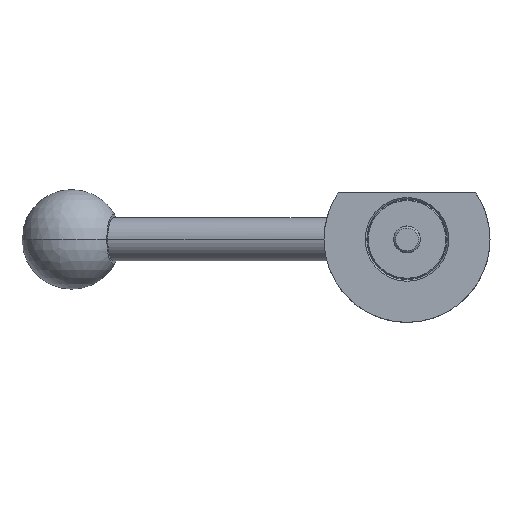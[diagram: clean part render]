
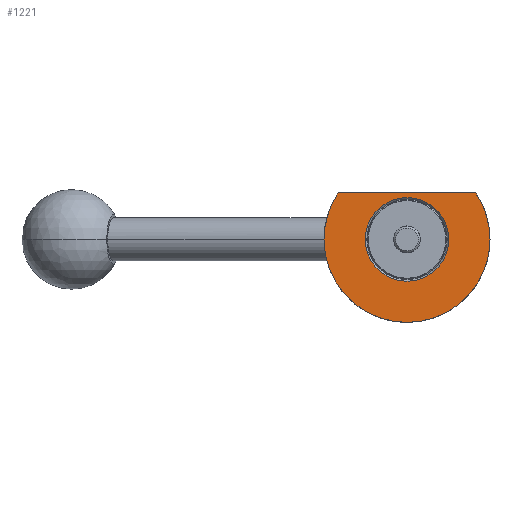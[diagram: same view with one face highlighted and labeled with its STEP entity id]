
A CAD part, front view. The second image highlights one B-rep face of the part: STEP entity #1221.
In plain terms, the highlighted planar face has unit normal (0, -1, 0).
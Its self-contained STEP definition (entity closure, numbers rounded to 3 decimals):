
#62 = DIRECTION ( 'NONE',  ( -1., 0., 0. ) ) ;
#117 = DIRECTION ( 'NONE',  ( 0., 1., 0. ) ) ;
#130 = CIRCLE ( 'NONE', #225, 12.6 ) ;
#174 = CARTESIAN_POINT ( 'NONE',  ( -12.6, -12., 0. ) ) ;
#219 = EDGE_CURVE ( 'NONE', #2017, #479, #1758, .T. ) ;
#225 = AXIS2_PLACEMENT_3D ( 'NONE', #1018, #117, #1645 ) ;
#343 = DIRECTION ( 'NONE',  ( 0., 1., 0. ) ) ;
#388 = CIRCLE ( 'NONE', #1528, 25. ) ;
#421 = ORIENTED_EDGE ( 'NONE', *, *, #219, .F. ) ;
#438 = DIRECTION ( 'NONE',  ( -1., 0., 0. ) ) ;
#440 = VERTEX_POINT ( 'NONE', #174 ) ;
#444 = CARTESIAN_POINT ( 'NONE',  ( -20.712, -12., 14. ) ) ;
#479 = VERTEX_POINT ( 'NONE', #2011 ) ;
#561 = PLANE ( 'NONE',  #2001 ) ;
#600 = CARTESIAN_POINT ( 'NONE',  ( -12.6, -12., 14. ) ) ;
#617 = DIRECTION ( 'NONE',  ( -1., 0., 0. ) ) ;
#643 = CARTESIAN_POINT ( 'NONE',  ( 0., -12., 0. ) ) ;
#649 = ORIENTED_EDGE ( 'NONE', *, *, #1873, .T. ) ;
#709 = AXIS2_PLACEMENT_3D ( 'NONE', #1771, #343, #62 ) ;
#770 = EDGE_CURVE ( 'NONE', #1635, #1343, #388, .T. ) ;
#870 = AXIS2_PLACEMENT_3D ( 'NONE', #898, #1384, #617 ) ;
#877 = VERTEX_POINT ( 'NONE', #1753 ) ;
#898 = CARTESIAN_POINT ( 'NONE',  ( 0., -12., 0. ) ) ;
#961 = CARTESIAN_POINT ( 'NONE',  ( -25., -12., 0. ) ) ;
#973 = AXIS2_PLACEMENT_3D ( 'NONE', #1157, #1974, #1022 ) ;
#977 = EDGE_CURVE ( 'NONE', #440, #877, #130, .T. ) ;
#1005 = FACE_OUTER_BOUND ( 'NONE', #1474, .T. ) ;
#1018 = CARTESIAN_POINT ( 'NONE',  ( 0., -12., 0. ) ) ;
#1019 = EDGE_CURVE ( 'NONE', #2017, #1343, #1245, .T. ) ;
#1022 = DIRECTION ( 'NONE',  ( -1., 0., 0. ) ) ;
#1024 = DIRECTION ( 'NONE',  ( 1., 0., 0. ) ) ;
#1035 = VECTOR ( 'NONE', #438, 1000. ) ;
#1037 = CIRCLE ( 'NONE', #709, 25. ) ;
#1082 = DIRECTION ( 'NONE',  ( 0., 1., 0. ) ) ;
#1155 = EDGE_LOOP ( 'NONE', ( #649, #1442 ) ) ;
#1157 = CARTESIAN_POINT ( 'NONE',  ( 0., -12., 0. ) ) ;
#1183 = CARTESIAN_POINT ( 'NONE',  ( -12.6, -12., 0. ) ) ;
#1221 = ADVANCED_FACE ( 'NONE', ( #1357, #1005 ), #561, .T. ) ;
#1245 = LINE ( 'NONE', #600, #1035 ) ;
#1279 = ORIENTED_EDGE ( 'NONE', *, *, #770, .F. ) ;
#1327 = DIRECTION ( 'NONE',  ( 0., -1., 0. ) ) ;
#1343 = VERTEX_POINT ( 'NONE', #444 ) ;
#1357 = FACE_BOUND ( 'NONE', #1155, .T. ) ;
#1384 = DIRECTION ( 'NONE',  ( 0., 1., 0. ) ) ;
#1414 = EDGE_CURVE ( 'NONE', #479, #1635, #1037, .T. ) ;
#1442 = ORIENTED_EDGE ( 'NONE', *, *, #977, .T. ) ;
#1474 = EDGE_LOOP ( 'NONE', ( #421, #1938, #1279, #1681 ) ) ;
#1528 = AXIS2_PLACEMENT_3D ( 'NONE', #643, #1082, #1713 ) ;
#1635 = VERTEX_POINT ( 'NONE', #961 ) ;
#1645 = DIRECTION ( 'NONE',  ( -1., 0., 0. ) ) ;
#1681 = ORIENTED_EDGE ( 'NONE', *, *, #1414, .F. ) ;
#1700 = CIRCLE ( 'NONE', #973, 12.6 ) ;
#1713 = DIRECTION ( 'NONE',  ( -1., 0., 0. ) ) ;
#1753 = CARTESIAN_POINT ( 'NONE',  ( 12.6, -12., 0. ) ) ;
#1758 = CIRCLE ( 'NONE', #870, 25. ) ;
#1771 = CARTESIAN_POINT ( 'NONE',  ( 0., -12., 0. ) ) ;
#1792 = CARTESIAN_POINT ( 'NONE',  ( 20.712, -12., 14. ) ) ;
#1873 = EDGE_CURVE ( 'NONE', #877, #440, #1700, .T. ) ;
#1938 = ORIENTED_EDGE ( 'NONE', *, *, #1019, .T. ) ;
#1974 = DIRECTION ( 'NONE',  ( 0., 1., 0. ) ) ;
#2001 = AXIS2_PLACEMENT_3D ( 'NONE', #1183, #1327, #1024 ) ;
#2011 = CARTESIAN_POINT ( 'NONE',  ( 25., -12., 0. ) ) ;
#2017 = VERTEX_POINT ( 'NONE', #1792 ) ;
